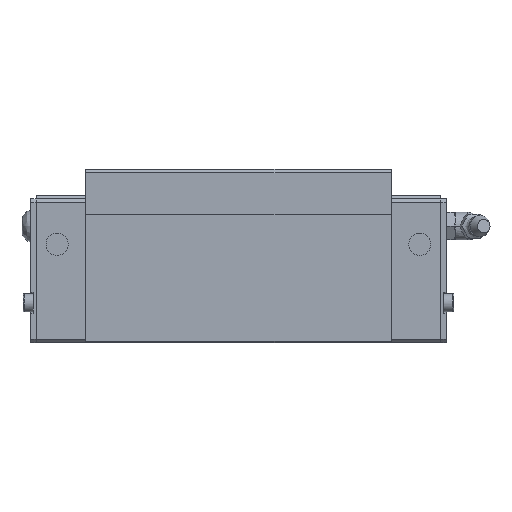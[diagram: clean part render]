
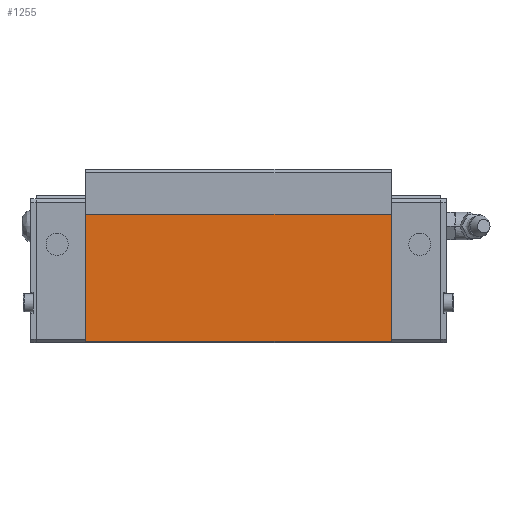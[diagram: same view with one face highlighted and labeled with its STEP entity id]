
A CAD part, left-side view. The second image highlights one B-rep face of the part: STEP entity #1255.
In plain terms, the highlighted planar face has unit normal (-1, 0, 0).
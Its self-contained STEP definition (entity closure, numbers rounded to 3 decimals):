
#1255=ADVANCED_FACE('',(#3513),#3515,.T.);
#3513=FACE_BOUND('',#3514,.T.);
#3514=EDGE_LOOP('',(#6431,#6432,#6433,#6434));
#3515=PLANE('',#3516);
#3516=AXIS2_PLACEMENT_3D('',#3517,#3518,#3519);
#3517=CARTESIAN_POINT('',(-49.125,21.25,13.625));
#3518=DIRECTION('',(-1.,0.,0.));
#3519=DIRECTION('',(0.,0.,1.));
#6431=ORIENTED_EDGE('',*,*,#7185,.F.);
#6432=ORIENTED_EDGE('',*,*,#7270,.T.);
#6433=ORIENTED_EDGE('',*,*,#7171,.F.);
#6434=ORIENTED_EDGE('',*,*,#7269,.F.);
#7171=EDGE_CURVE('',#7982,#7984,#7985,.T.);
#7185=EDGE_CURVE('',#8007,#8009,#8010,.T.);
#7269=EDGE_CURVE('',#8009,#7982,#8141,.T.);
#7270=EDGE_CURVE('',#8007,#7984,#8142,.T.);
#7982=VERTEX_POINT('',#11155);
#7984=VERTEX_POINT('',#11159);
#7985=LINE('',#11160,#11161);
#8007=VERTEX_POINT('',#11208);
#8009=VERTEX_POINT('',#11212);
#8010=LINE('',#11213,#11214);
#8141=LINE('',#12575,#12576);
#8142=LINE('',#12578,#12579);
#11155=CARTESIAN_POINT('',(-49.125,21.25,62.5));
#11159=CARTESIAN_POINT('',(-49.125,21.25,13.625));
#11160=CARTESIAN_POINT('',(-49.125,21.25,62.5));
#11161=VECTOR('',#11162,1.);
#11162=DIRECTION('',(0.,0.,-1.));
#11208=CARTESIAN_POINT('',(-49.125,138.95,13.625));
#11212=CARTESIAN_POINT('',(-49.125,138.95,62.5));
#11213=CARTESIAN_POINT('',(-49.125,138.95,13.625));
#11214=VECTOR('',#11215,1.);
#11215=DIRECTION('',(0.,0.,1.));
#12575=CARTESIAN_POINT('',(-49.125,138.95,62.5));
#12576=VECTOR('',#12577,1.);
#12577=DIRECTION('',(0.,-1.,0.));
#12578=CARTESIAN_POINT('',(-49.125,138.95,13.625));
#12579=VECTOR('',#12580,1.);
#12580=DIRECTION('',(0.,-1.,0.));
